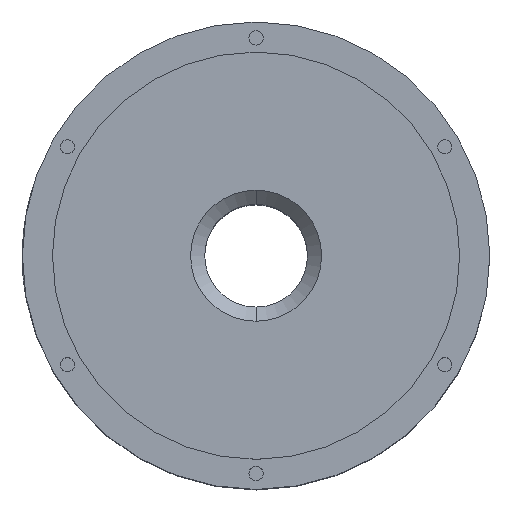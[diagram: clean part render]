
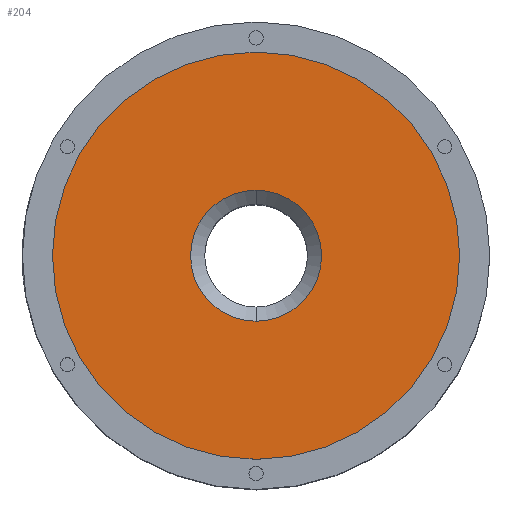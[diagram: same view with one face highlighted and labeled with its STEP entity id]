
A CAD part, top view. The second image highlights one B-rep face of the part: STEP entity #204.
In plain terms, the highlighted planar face has unit normal (0, 0, 1).
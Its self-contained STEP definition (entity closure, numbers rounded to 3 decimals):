
#193 = EDGE_LOOP ( 'NONE', ( #203, #206 ) ) ;
#197 = EDGE_LOOP ( 'NONE', ( #4568, #6435 ) ) ;
#201 = EDGE_CURVE ( 'NONE', #4735, #278, #5141, .T. ) ;
#203 = ORIENTED_EDGE ( 'NONE', *, *, #4741, .T. ) ;
#204 = ADVANCED_FACE ( 'NONE', ( #5138, #5142 ), #5131, .T. ) ;
#206 = ORIENTED_EDGE ( 'NONE', *, *, #201, .T. ) ;
#211 = EDGE_CURVE ( 'NONE', #3285, #3284, #5148, .T. ) ;
#278 = VERTEX_POINT ( 'NONE', #5270 ) ;
#2649 = DIRECTION ( 'NONE',  ( 0., -1., 0. ) ) ;
#2650 = DIRECTION ( 'NONE',  ( 0., 0., -1. ) ) ;
#2651 = CARTESIAN_POINT ( 'NONE',  ( 0., 0., 188. ) ) ;
#2652 = AXIS2_PLACEMENT_3D ( 'NONE', #2651, #2650, #2649 ) ;
#2653 = CIRCLE ( 'NONE', #2652, 37. ) ;
#2662 = CARTESIAN_POINT ( 'NONE',  ( 0., 37., 188. ) ) ;
#3223 = EDGE_CURVE ( 'NONE', #3284, #3285, #6014, .T. ) ;
#3284 = VERTEX_POINT ( 'NONE', #6102 ) ;
#3285 = VERTEX_POINT ( 'NONE', #6084 ) ;
#4568 = ORIENTED_EDGE ( 'NONE', *, *, #3223, .F. ) ;
#4735 = VERTEX_POINT ( 'NONE', #2662 ) ;
#4741 = EDGE_CURVE ( 'NONE', #278, #4735, #2653, .T. ) ;
#5131 = PLANE ( 'NONE',  #5143 ) ;
#5134 = CARTESIAN_POINT ( 'NONE',  ( 0., 0., 188. ) ) ;
#5135 = DIRECTION ( 'NONE',  ( 0., -1., 0. ) ) ;
#5136 = DIRECTION ( 'NONE',  ( 0., 0., -1. ) ) ;
#5137 = AXIS2_PLACEMENT_3D ( 'NONE', #5160, #5136, #5135 ) ;
#5138 = FACE_BOUND ( 'NONE', #193, .T. ) ;
#5140 = AXIS2_PLACEMENT_3D ( 'NONE', #5134, #5190, #5189 ) ;
#5141 = CIRCLE ( 'NONE', #5137, 37. ) ;
#5142 = FACE_OUTER_BOUND ( 'NONE', #197, .T. ) ;
#5143 = AXIS2_PLACEMENT_3D ( 'NONE', #5196, #5195, #5194 ) ;
#5148 = CIRCLE ( 'NONE', #5140, 115. ) ;
#5160 = CARTESIAN_POINT ( 'NONE',  ( 0., 0., 188. ) ) ;
#5189 = DIRECTION ( 'NONE',  ( 0., 1., 0. ) ) ;
#5190 = DIRECTION ( 'NONE',  ( 0., 0., -1. ) ) ;
#5194 = DIRECTION ( 'NONE',  ( 0., -1., 0. ) ) ;
#5195 = DIRECTION ( 'NONE',  ( 0., 0., 1. ) ) ;
#5196 = CARTESIAN_POINT ( 'NONE',  ( 0., -29., 188. ) ) ;
#5270 = CARTESIAN_POINT ( 'NONE',  ( 0., -37., 188. ) ) ;
#5956 = CARTESIAN_POINT ( 'NONE',  ( 0., 0., 188. ) ) ;
#6010 = DIRECTION ( 'NONE',  ( 0., 1., 0. ) ) ;
#6011 = DIRECTION ( 'NONE',  ( 0., 0., -1. ) ) ;
#6012 = AXIS2_PLACEMENT_3D ( 'NONE', #5956, #6011, #6010 ) ;
#6014 = CIRCLE ( 'NONE', #6012, 115. ) ;
#6084 = CARTESIAN_POINT ( 'NONE',  ( 0., -115., 188. ) ) ;
#6102 = CARTESIAN_POINT ( 'NONE',  ( 0., 115., 188. ) ) ;
#6435 = ORIENTED_EDGE ( 'NONE', *, *, #211, .F. ) ;
